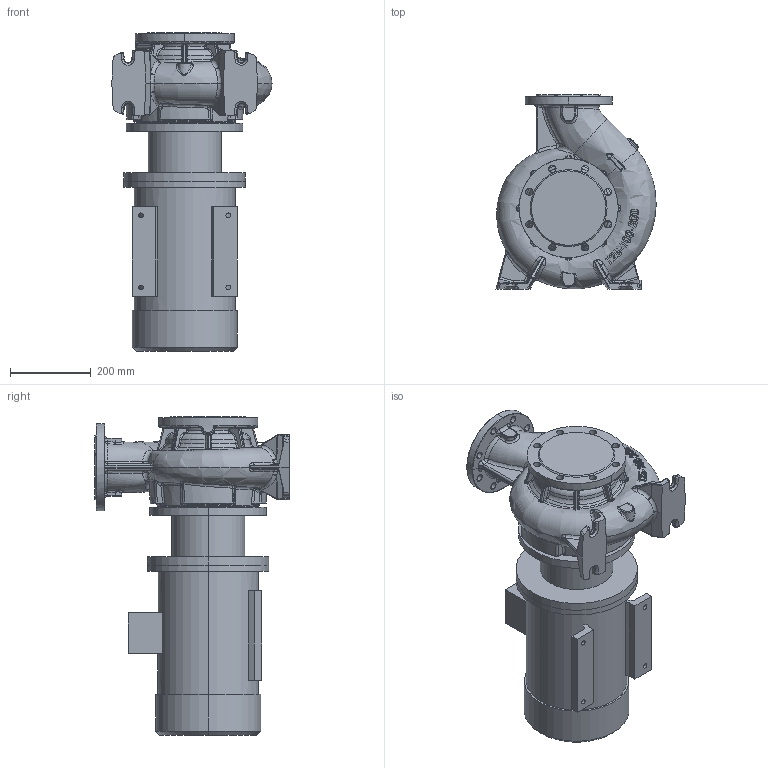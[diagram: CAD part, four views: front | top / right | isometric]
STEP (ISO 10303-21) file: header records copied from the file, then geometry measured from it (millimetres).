
FILE_DESCRIPTION (( 'STEP AP203' ), '1' );
FILE_NAME ('KRM 125-100-200-4-7,5.STEP', '2026-08-18T05:35:43', ( '' ), ( '' ), 'SwSTEP 2.0', 'SolidWorks 2016', '' );
FILE_SCHEMA (( 'CONFIG_CONTROL_DESIGN' ));
Length unit declared in the file: millimetre
Products named in the file (1): KRM 125-100-200-4-7,5
Bounding box: 396.31 x 480 x 787.8 mm (x, y, z)
Volume: 47818363.9 mm3; surface area: 1717015.2 mm2
Topology: 15 solids, 15 shells, 1375 faces, 3312 edges, 1955 vertices
Faces by surface type: bspline 630, cylinder 267, plane 234, torus 115, cone 80, sphere 49
Entity records: 95142 total; most frequent: CARTESIAN_POINT 67973, ORIENTED_EDGE 6562, DIRECTION 4493, EDGE_CURVE 3281, VERTEX_POINT 1953, AXIS2_PLACEMENT_3D 1889, EDGE_LOOP 1440, ADVANCED_FACE 1375
